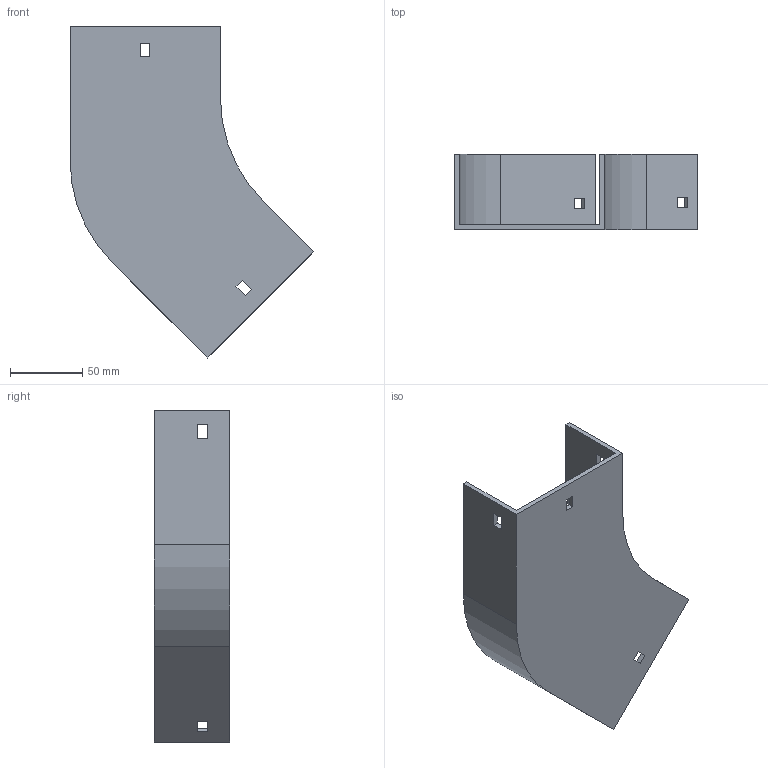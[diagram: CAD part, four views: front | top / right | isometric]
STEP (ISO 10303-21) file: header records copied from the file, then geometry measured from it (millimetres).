
FILE_DESCRIPTION (( 'STEP AP214' ), '1' );
FILE_NAME ('11B1B100.step', '2025-02-21T09:37:31', ( '' ), ( '' ), 'SwSTEP 2.0', 'SolidWorks 2023', '' );
FILE_SCHEMA (( 'AUTOMOTIVE_DESIGN' ));
Length unit declared in the file: millimetre
Products named in the file (1): 11B1B100
Bounding box: 168.64 x 52 x 229.61 mm (x, y, z)
Volume: 156085 mm3; surface area: 92842.8 mm2
Topology: 1 solids, 1 shells, 42 faces, 120 edges, 80 vertices
Faces by surface type: plane 38, cylinder 4
Entity records: 1399 total; most frequent: CARTESIAN_POINT 243, ORIENTED_EDGE 240, DIRECTION 214, EDGE_CURVE 120, LINE 112, VECTOR 112, VERTEX_POINT 80, EDGE_LOOP 54
